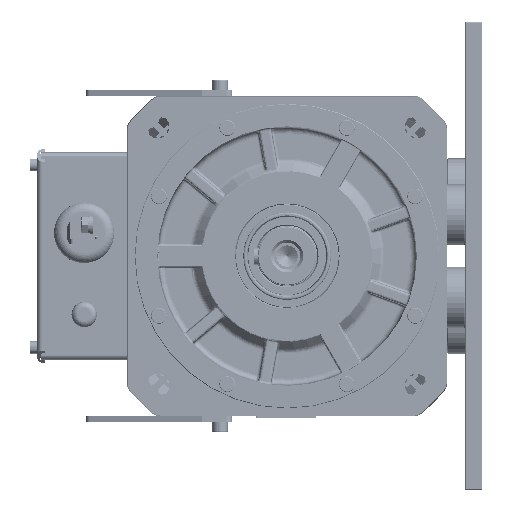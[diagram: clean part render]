
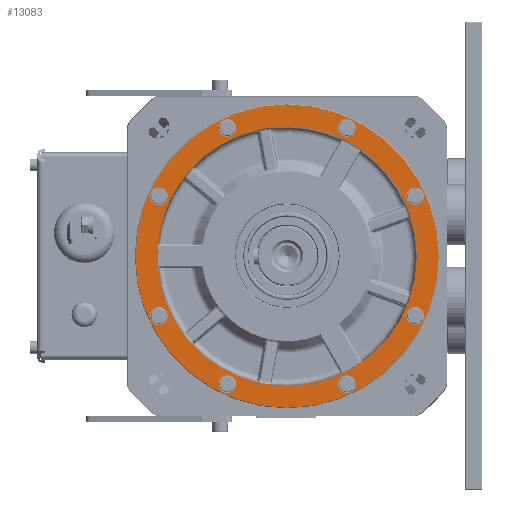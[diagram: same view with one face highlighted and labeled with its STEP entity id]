
A CAD part, left-side view. The second image highlights one B-rep face of the part: STEP entity #13083.
In plain terms, the highlighted planar face has unit normal (-1, 0, 0).
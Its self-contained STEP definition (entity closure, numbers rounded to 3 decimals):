
#3775=CARTESIAN_POINT('',(0.5,0.,0.));
#3776=DIRECTION('',(1.,0.,0.));
#3777=DIRECTION('',(0.,1.,0.));
#3778=AXIS2_PLACEMENT_3D('',#3775,#3776,#3777);
#3948=CARTESIAN_POINT('',(0.5,0.,0.));
#3949=DIRECTION('',(1.,0.,0.));
#3950=DIRECTION('',(0.,-1.,0.));
#3951=AXIS2_PLACEMENT_3D('',#3948,#3949,#3950);
#3953=CARTESIAN_POINT('',(0.5,0.,0.));
#3954=DIRECTION('',(-1.,0.,0.));
#3955=DIRECTION('',(0.,-1.,0.));
#3956=AXIS2_PLACEMENT_3D('',#3953,#3954,#3955);
#7892=CARTESIAN_POINT('',(0.5,0.,0.));
#7893=DIRECTION('',(1.,0.,0.));
#7894=DIRECTION('',(0.,-1.,0.));
#7895=AXIS2_PLACEMENT_3D('',#7892,#7893,#7894);
#11270=CARTESIAN_POINT('',(0.5,105.132,-49.024));
#11271=DIRECTION('',(-1.,0.,0.));
#11272=DIRECTION('',(0.,0.,1.));
#11273=AXIS2_PLACEMENT_3D('',#11270,#11271,#11272);
#11279=CARTESIAN_POINT('',(0.5,105.132,-49.024));
#11280=DIRECTION('',(-1.,0.,0.));
#11281=DIRECTION('',(0.,0.,-1.));
#11282=AXIS2_PLACEMENT_3D('',#11279,#11280,#11281);
#11326=CARTESIAN_POINT('',(0.5,105.132,49.024));
#11327=DIRECTION('',(1.,0.,0.));
#11328=DIRECTION('',(0.,0.,-1.));
#11329=AXIS2_PLACEMENT_3D('',#11326,#11327,#11328);
#11335=CARTESIAN_POINT('',(0.5,105.132,49.024));
#11336=DIRECTION('',(1.,0.,0.));
#11337=DIRECTION('',(0.,0.,1.));
#11338=AXIS2_PLACEMENT_3D('',#11335,#11336,#11337);
#11382=CARTESIAN_POINT('',(0.5,49.024,105.132));
#11383=DIRECTION('',(-1.,0.,0.));
#11384=DIRECTION('',(0.,-1.,0.));
#11385=AXIS2_PLACEMENT_3D('',#11382,#11383,#11384);
#11391=CARTESIAN_POINT('',(0.5,49.024,105.132));
#11392=DIRECTION('',(-1.,0.,0.));
#11393=DIRECTION('',(0.,1.,0.));
#11394=AXIS2_PLACEMENT_3D('',#11391,#11392,#11393);
#11438=CARTESIAN_POINT('',(0.5,-49.024,105.132));
#11439=DIRECTION('',(1.,0.,0.));
#11440=DIRECTION('',(0.,1.,0.));
#11441=AXIS2_PLACEMENT_3D('',#11438,#11439,#11440);
#11447=CARTESIAN_POINT('',(0.5,-49.024,105.132));
#11448=DIRECTION('',(1.,0.,0.));
#11449=DIRECTION('',(0.,-1.,0.));
#11450=AXIS2_PLACEMENT_3D('',#11447,#11448,#11449);
#11494=CARTESIAN_POINT('',(0.5,-105.132,49.024));
#11495=DIRECTION('',(-1.,0.,0.));
#11496=DIRECTION('',(0.,0.,-1.));
#11497=AXIS2_PLACEMENT_3D('',#11494,#11495,#11496);
#11503=CARTESIAN_POINT('',(0.5,-105.132,49.024));
#11504=DIRECTION('',(-1.,0.,0.));
#11505=DIRECTION('',(0.,0.,1.));
#11506=AXIS2_PLACEMENT_3D('',#11503,#11504,#11505);
#11550=CARTESIAN_POINT('',(0.5,-105.132,-49.024));
#11551=DIRECTION('',(1.,0.,0.));
#11552=DIRECTION('',(0.,0.,1.));
#11553=AXIS2_PLACEMENT_3D('',#11550,#11551,#11552);
#11559=CARTESIAN_POINT('',(0.5,-105.132,-49.024));
#11560=DIRECTION('',(1.,0.,0.));
#11561=DIRECTION('',(0.,0.,-1.));
#11562=AXIS2_PLACEMENT_3D('',#11559,#11560,#11561);
#11606=CARTESIAN_POINT('',(0.5,-49.024,-105.132));
#11607=DIRECTION('',(-1.,0.,0.));
#11608=DIRECTION('',(0.,1.,0.));
#11609=AXIS2_PLACEMENT_3D('',#11606,#11607,#11608);
#11615=CARTESIAN_POINT('',(0.5,-49.024,-105.132));
#11616=DIRECTION('',(-1.,0.,0.));
#11617=DIRECTION('',(0.,-1.,0.));
#11618=AXIS2_PLACEMENT_3D('',#11615,#11616,#11617);
#11662=CARTESIAN_POINT('',(0.5,49.024,-105.132));
#11663=DIRECTION('',(1.,0.,0.));
#11664=DIRECTION('',(0.,-1.,0.));
#11665=AXIS2_PLACEMENT_3D('',#11662,#11663,#11664);
#11671=CARTESIAN_POINT('',(0.5,49.024,-105.132));
#11672=DIRECTION('',(1.,0.,0.));
#11673=DIRECTION('',(0.,1.,0.));
#11674=AXIS2_PLACEMENT_3D('',#11671,#11672,#11673);
#12613=CARTESIAN_POINT('',(0.5,106.456,
0.));
#12614=CARTESIAN_POINT('',(0.5,-106.456,0.));
#12615=VERTEX_POINT('',#12613);
#12616=VERTEX_POINT('',#12614);
#12745=CARTESIAN_POINT('',(0.5,105.132,-41.774));
#12746=CARTESIAN_POINT('',(0.5,105.132,-56.274));
#12747=VERTEX_POINT('',#12745);
#12748=VERTEX_POINT('',#12746);
#12869=CARTESIAN_POINT('',(0.5,105.132,41.774));
#12870=CARTESIAN_POINT('',(0.5,105.132,56.274));
#12871=VERTEX_POINT('',#12869);
#12872=VERTEX_POINT('',#12870);
#12877=CARTESIAN_POINT('',(0.5,41.774,105.132));
#12878=CARTESIAN_POINT('',(0.5,56.274,105.132));
#12879=VERTEX_POINT('',#12877);
#12880=VERTEX_POINT('',#12878);
#12885=CARTESIAN_POINT('',(0.5,-41.774,105.132));
#12886=CARTESIAN_POINT('',(0.5,-56.274,105.132));
#12887=VERTEX_POINT('',#12885);
#12888=VERTEX_POINT('',#12886);
#12893=CARTESIAN_POINT('',(0.5,-105.132,41.774));
#12894=CARTESIAN_POINT('',(0.5,-105.132,56.274));
#12895=VERTEX_POINT('',#12893);
#12896=VERTEX_POINT('',#12894);
#12901=CARTESIAN_POINT('',(0.5,-105.132,-41.774));
#12902=CARTESIAN_POINT('',(0.5,-105.132,-56.274));
#12903=VERTEX_POINT('',#12901);
#12904=VERTEX_POINT('',#12902);
#12909=CARTESIAN_POINT('',(0.5,-41.774,-105.132));
#12910=CARTESIAN_POINT('',(0.5,-56.274,-105.132));
#12911=VERTEX_POINT('',#12909);
#12912=VERTEX_POINT('',#12910);
#12917=CARTESIAN_POINT('',(0.5,41.774,-105.132));
#12918=CARTESIAN_POINT('',(0.5,56.274,-105.132));
#12919=VERTEX_POINT('',#12917);
#12920=VERTEX_POINT('',#12918);
#12941=CARTESIAN_POINT('',(0.5,-124.5,0.));
#12942=VERTEX_POINT('',#12941);
#12943=CARTESIAN_POINT('',(0.5,124.5,0.));
#12944=VERTEX_POINT('',#12943);
#13019=CARTESIAN_POINT('',(0.5,0.,0.));
#13020=DIRECTION('',(-1.,0.,0.));
#13021=DIRECTION('',(0.,1.,0.));
#13022=AXIS2_PLACEMENT_3D('',#13019,#13020,#13021);
#13023=PLANE('',#13022);
#13025=ORIENTED_EDGE('',*,*,#13024,.T.);
#13027=ORIENTED_EDGE('',*,*,#13026,.F.);
#13028=EDGE_LOOP('',(#13025,#13027));
#13029=FACE_OUTER_BOUND('',#13028,.F.);
#13030=ORIENTED_EDGE('',*,*,#12950,.F.);
#13032=ORIENTED_EDGE('',*,*,#13031,.F.);
#13033=EDGE_LOOP('',(#13030,#13032));
#13034=FACE_BOUND('',#13033,.F.);
#13036=ORIENTED_EDGE('',*,*,#13035,.T.);
#13038=ORIENTED_EDGE('',*,*,#13037,.T.);
#13039=EDGE_LOOP('',(#13036,#13038));
#13040=FACE_BOUND('',#13039,.F.);
#13042=ORIENTED_EDGE('',*,*,#13041,.F.);
#13044=ORIENTED_EDGE('',*,*,#13043,.F.);
#13045=EDGE_LOOP('',(#13042,#13044));
#13046=FACE_BOUND('',#13045,.F.);
#13048=ORIENTED_EDGE('',*,*,#13047,.T.);
#13050=ORIENTED_EDGE('',*,*,#13049,.T.);
#13051=EDGE_LOOP('',(#13048,#13050));
#13052=FACE_BOUND('',#13051,.F.);
#13054=ORIENTED_EDGE('',*,*,#13053,.F.);
#13056=ORIENTED_EDGE('',*,*,#13055,.F.);
#13057=EDGE_LOOP('',(#13054,#13056));
#13058=FACE_BOUND('',#13057,.F.);
#13060=ORIENTED_EDGE('',*,*,#13059,.T.);
#13062=ORIENTED_EDGE('',*,*,#13061,.T.);
#13063=EDGE_LOOP('',(#13060,#13062));
#13064=FACE_BOUND('',#13063,.F.);
#13066=ORIENTED_EDGE('',*,*,#13065,.F.);
#13068=ORIENTED_EDGE('',*,*,#13067,.F.);
#13069=EDGE_LOOP('',(#13066,#13068));
#13070=FACE_BOUND('',#13069,.F.);
#13072=ORIENTED_EDGE('',*,*,#13071,.T.);
#13074=ORIENTED_EDGE('',*,*,#13073,.T.);
#13075=EDGE_LOOP('',(#13072,#13074));
#13076=FACE_BOUND('',#13075,.F.);
#13078=ORIENTED_EDGE('',*,*,#13077,.F.);
#13080=ORIENTED_EDGE('',*,*,#13079,.F.);
#13081=EDGE_LOOP('',(#13078,#13080));
#13082=FACE_BOUND('',#13081,.F.);
#13083=ADVANCED_FACE('',(#13029,#13034,#13040,#13046,#13052,#13058,#13064,
#13070,#13076,#13082),#13023,.T.);
#3779=CIRCLE('',#3778,106.456);
#3952=CIRCLE('',#3951,124.5);
#3957=CIRCLE('',#3956,124.5);
#7896=CIRCLE('',#7895,106.456);
#11274=CIRCLE('',#11273,7.25);
#11283=CIRCLE('',#11282,7.25);
#11330=CIRCLE('',#11329,7.25);
#11339=CIRCLE('',#11338,7.25);
#11386=CIRCLE('',#11385,7.25);
#11395=CIRCLE('',#11394,7.25);
#11442=CIRCLE('',#11441,7.25);
#11451=CIRCLE('',#11450,7.25);
#11498=CIRCLE('',#11497,7.25);
#11507=CIRCLE('',#11506,7.25);
#11554=CIRCLE('',#11553,7.25);
#11563=CIRCLE('',#11562,7.25);
#11610=CIRCLE('',#11609,7.25);
#11619=CIRCLE('',#11618,7.25);
#11666=CIRCLE('',#11665,7.25);
#11675=CIRCLE('',#11674,7.25);
#12950=EDGE_CURVE('',#12615,#12616,#3779,.T.);
#13024=EDGE_CURVE('',#12942,#12944,#3952,.T.);
#13026=EDGE_CURVE('',#12942,#12944,#3957,.T.);
#13031=EDGE_CURVE('',#12616,#12615,#7896,.T.);
#13035=EDGE_CURVE('',#12747,#12748,#11274,.T.);
#13037=EDGE_CURVE('',#12748,#12747,#11283,.T.);
#13041=EDGE_CURVE('',#12871,#12872,#11330,.T.);
#13043=EDGE_CURVE('',#12872,#12871,#11339,.T.);
#13047=EDGE_CURVE('',#12879,#12880,#11386,.T.);
#13049=EDGE_CURVE('',#12880,#12879,#11395,.T.);
#13053=EDGE_CURVE('',#12887,#12888,#11442,.T.);
#13055=EDGE_CURVE('',#12888,#12887,#11451,.T.);
#13059=EDGE_CURVE('',#12895,#12896,#11498,.T.);
#13061=EDGE_CURVE('',#12896,#12895,#11507,.T.);
#13065=EDGE_CURVE('',#12903,#12904,#11554,.T.);
#13067=EDGE_CURVE('',#12904,#12903,#11563,.T.);
#13071=EDGE_CURVE('',#12911,#12912,#11610,.T.);
#13073=EDGE_CURVE('',#12912,#12911,#11619,.T.);
#13077=EDGE_CURVE('',#12919,#12920,#11666,.T.);
#13079=EDGE_CURVE('',#12920,#12919,#11675,.T.);
